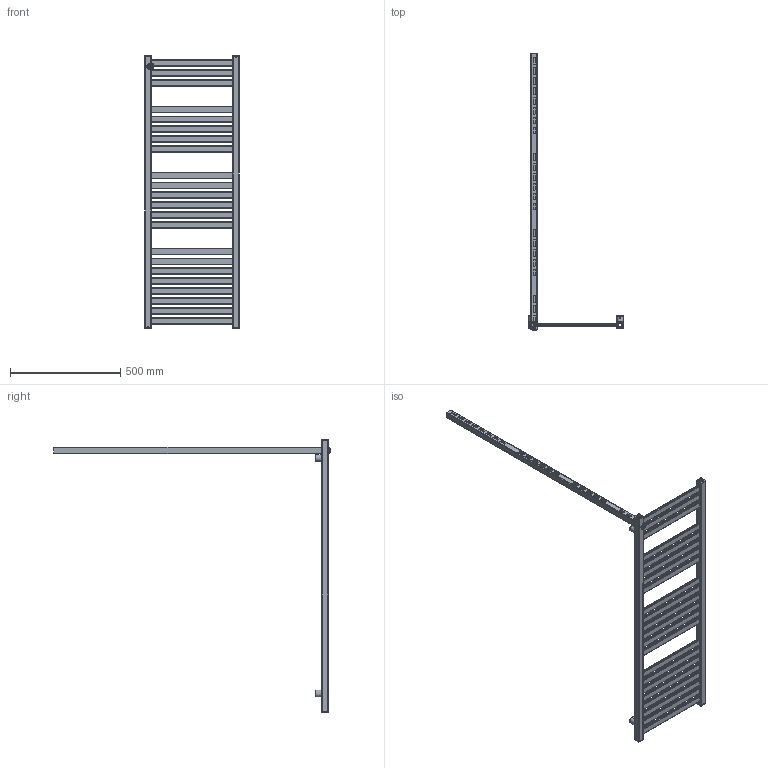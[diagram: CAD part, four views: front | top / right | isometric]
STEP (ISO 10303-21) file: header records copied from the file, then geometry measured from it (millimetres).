
FILE_DESCRIPTION( ( 'Unknown' ), '1' );
FILE_NAME( 'D:/Alplast sp. j/Witryna zespoBu - Projekty/Archiwum/Grzejniki Archiwum/Projekty/STANDARD/AK-EP/AK5-400EP.stp', 'Unknown', ( 'Unknown' ), ( 'Unknown' ), 'PSStep 10.1', 'Unknown', ' ' );
FILE_SCHEMA( ( 'AUTOMOTIVE_DESIGN { 1 0 10303 214 1 1 1 1 }' ) );
Length unit declared in the file: millimetre
Products named in the file (8): uchwyt plastikowy; Assem1; MOCOWANIE L40-01; MOCOWANIE FASOLKA; kana³  poziomy 30x10  400; zaslepka kwadrat otwor; mocowanie; AK5-EPEL
Bounding box: 430 x 1254 x 1240.13 mm (x, y, z)
Volume: 1581243.6 mm3; surface area: 2086810.1 mm2
Topology: 48 solids, 48 shells, 1175 faces, 3201 edges, 2126 vertices
Faces by surface type: plane 636, cylinder 505, cone 24, torus 10
Full cylindrical faces by diameter (mm): 4.917 x6, 16 x5, 18 x5, 18.631 x5, 22 x6, 22.7 x6, 23 x11, 30 x6
Entity records: 10780 total; most frequent: CARTESIAN_POINT 1581, DIRECTION 1529, ORIENTED_EDGE 1398, EDGE_CURVE 699, AXIS2_PLACEMENT_3D 538, VERTEX_POINT 474, LINE 453, VECTOR 453
